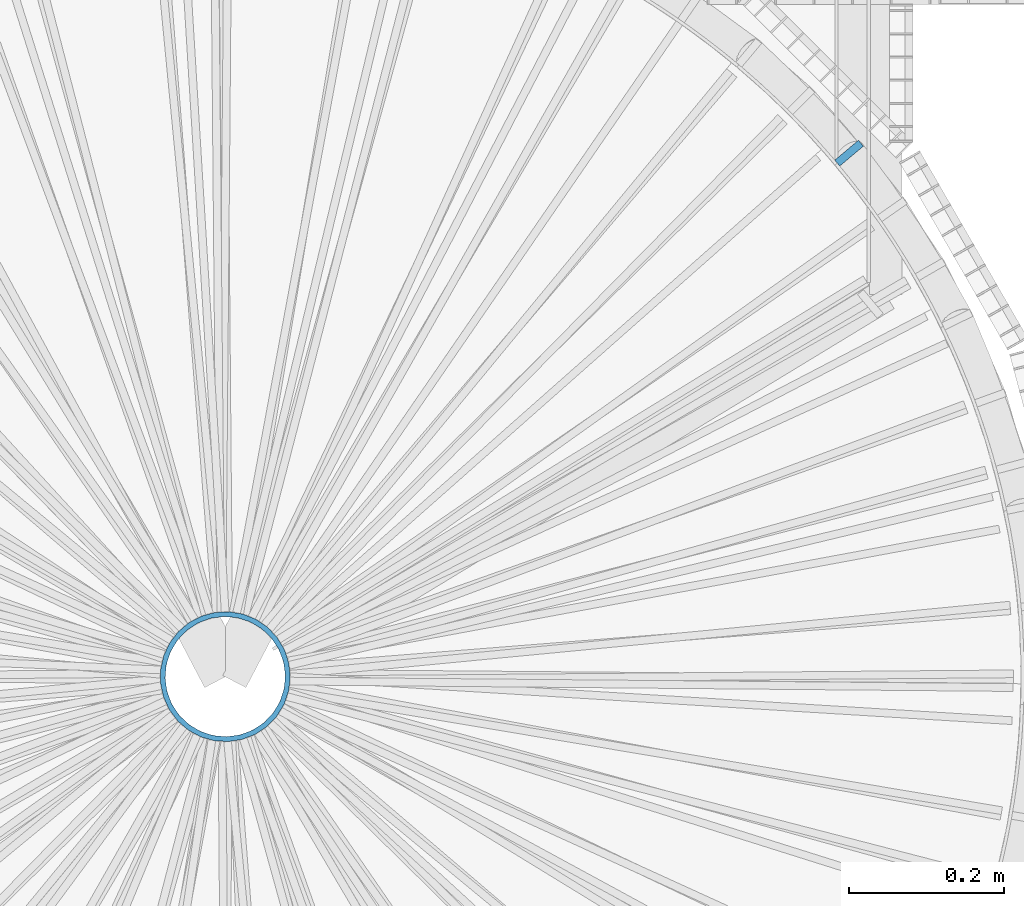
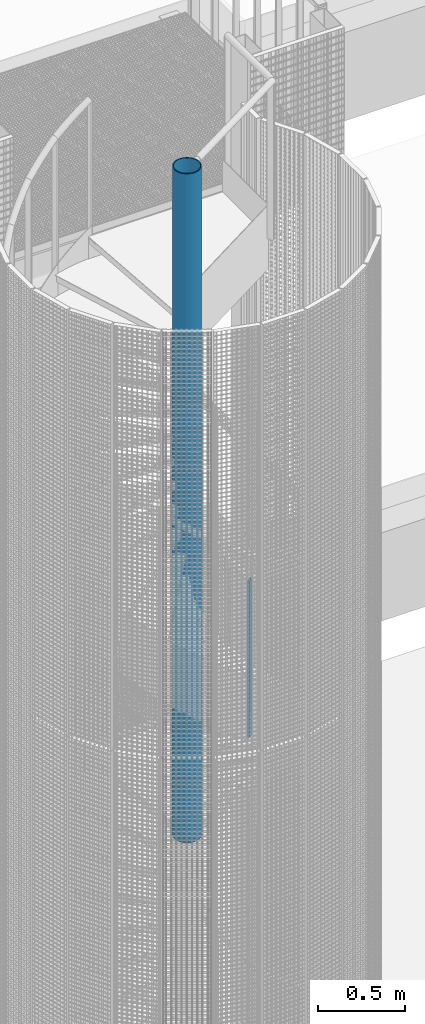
# One storey, part 50 of 1148: 2 columns, 2 elements without a shape of their own.
"""IFC2X3 building model written with IfcOpenShell, lengths in millimetres."""

from ifc_helpers import new_model, si_unit, frame, origin_with_axes, origin_2d_with_axis, place, context, subcontext, project, spatial, rectangle, hollow_circle, extrude, material, type_object, element, aggregate, save


model = new_model("IFC2X3")

# Units and contexts
model_context = context("Model", 3, precision=1e-05, world=origin_with_axes())
body_context = subcontext(model_context, "Body", "Model", "MODEL_VIEW")
ifc_project = project(units=[si_unit("LENGTHUNIT", "METRE", prefix="MILLI"), si_unit("AREAUNIT", "SQUARE_METRE"), si_unit("VOLUMEUNIT", "CUBIC_METRE"), si_unit("MASSUNIT", "GRAM", prefix="KILO"), si_unit("TIMEUNIT", "SECOND"), si_unit("PLANEANGLEUNIT", "RADIAN"), si_unit("SOLIDANGLEUNIT", "STERADIAN"), si_unit("THERMODYNAMICTEMPERATUREUNIT", "DEGREE_CELSIUS"), si_unit("LUMINOUSINTENSITYUNIT", "LUMEN")], contexts=[model_context])

# Site, building, storey
site_placement = place(None, origin_with_axes())
site = spatial("IfcSite", under=ifc_project, at=site_placement, Name="Undefined", CompositionType="ELEMENT")
building_placement = place(site_placement, origin_with_axes())
building = spatial("IfcBuilding", under=site, at=building_placement, Name="Undefined", CompositionType="ELEMENT")
storey_placement = place(building_placement, origin_with_axes())
storey = spatial("IfcBuildingStorey", under=building, at=storey_placement, Name="Undefined", CompositionType="ELEMENT", Elevation=0.0)

# Assembly, column
assembly_1_placement = place(storey_placement, origin_with_axes())
assembly_1 = element("IfcElementAssembly", 1, at=assembly_1_placement, inside=storey, Name="MONTANT", AssemblyPlace="NOTDEFINED", PredefinedType="NOTDEFINED")
ifc_material = material(Name="STEEL/S235JR")
column_type_1 = type_object("IfcColumnType", Name="PL10*40", PredefinedType="NOTDEFINED")
column_1_placement = place(assembly_1_placement, frame((22407.4108430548, 677.498140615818, 13690.0), z_axis=(0.0, 0.0, 1.0), x_axis=(-0.76604444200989, -0.642787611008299, 0.0)))
column_1 = element("IfcColumn", 2, at=column_1_placement, type_object=column_type_1, material=ifc_material, Name="MONTANT", context=body_context, shape_type="SweptSolid", body=[
    extrude(rectangle(XDim=10.0, YDim=40.0, at=origin_2d_with_axis()), frame((0.0, 0.0, 1100.0), z_axis=(0.0, 0.0, -1.0), x_axis=(0.0, 1.0, 0.0)), (0.0, 0.0, 1.0), 1100.0),
])
aggregate(assembly_1, [column_1])

assembly_2_placement = place(storey_placement, origin_with_axes())
assembly_2 = element("IfcElementAssembly", 3, at=assembly_2_placement, inside=storey, Name="POTEAU", AssemblyPlace="NOTDEFINED", PredefinedType="NOTDEFINED")
column_type_2 = type_object("IfcColumnType", Name="TUBE-168.3*6.3", PredefinedType="NOTDEFINED")
column_2_placement = place(assembly_2_placement, frame((21600.0, 0.0, 13690.0), z_axis=(0.0, 0.0, 1.0), x_axis=(-0.76604444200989, -0.642787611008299, 0.0)))
column_2 = element("IfcColumn", 4, at=column_2_placement, type_object=column_type_2, material=ifc_material, Name="POTEAU", context=body_context, shape_type="SweptSolid", body=[
    extrude(hollow_circle(Radius=84.15000155, WallThickness=6.300000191, at=origin_2d_with_axis()), frame((0.0, 0.0, 4700.0), z_axis=(0.0, 0.0, -1.0), x_axis=(0.0, 1.0, 0.0)), (0.0, 0.0, 1.0), 4700.0),
])
aggregate(assembly_2, [column_2])

save(model, "model.ifc")
